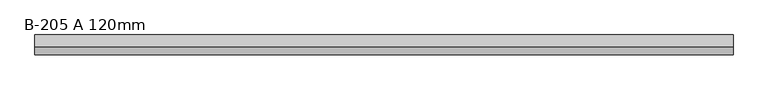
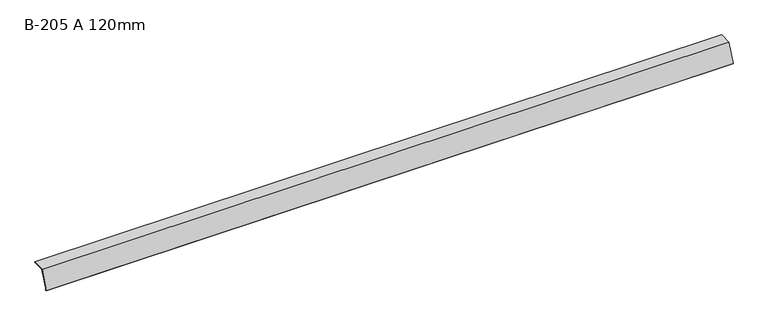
"""IFC4 building model written with IfcOpenShell, lengths in millimetres: proxy geometry, GROVIK_Flashing_Eaves : B-205 A 120mm."""

from ifc_helpers import new_model, si_unit, frame, origin, place, context, project, spatial, polyline, outline, extrude, source, transform, mapped, element, save


def b_205_a_120mm_6110ca3e(model_context):
    return source(origin(), model_context, "Body", "SweptSolid", [
        extrude(outline(polyline([(-0.6918582, 0.9880759), (-43.5778606, -110.7337801), (-33.8749034, -108.3145612), (-33.6329815, -109.2848569), (-45.1998595, -112.1688035), (-1.3837164, 1.9761518), (73.9538246, 3.2911735), (73.971277, 2.2913258), (-0.6918582, 0.9880759)])), frame((0.0, 0.0, 0.0), z_axis=(1.0, 0.0, 0.0), x_axis=(0.0, 1.0, 0.0)), (0.0, 0.0, 1.0), 4200.0),
    ])


if __name__ == "__main__":
    model = new_model("IFC4")
    model_context = context("Model", 3, world=origin())
    ifc_project = project(units=[si_unit("LENGTHUNIT", "METRE", prefix="MILLI")], contexts=[model_context])
    site = spatial("IfcSite", under=ifc_project)
    building = spatial("IfcBuilding", under=site)
    placement = place(None, origin())
    b_205_a_120mm_shape = b_205_a_120mm_6110ca3e(model_context)
    element("IfcBuildingElementProxy", 1, Name="GROVIK_Flashing_Eaves : B-205 A 120mm", ObjectType="GROVIK_Flashing_Eaves : B-205 A 120mm", at=placement, inside=building, context=model_context, shape_type="MappedRepresentation", body=[
        mapped(b_205_a_120mm_shape, transform((0.0, 0.0, 0.0), x_axis=(1.0, 0.0, 0.0), y_axis=(0.0, 1.0, 0.0), z_axis=(0.0, 0.0, 1.0))),
    ])
    save(model, "model.ifc")
